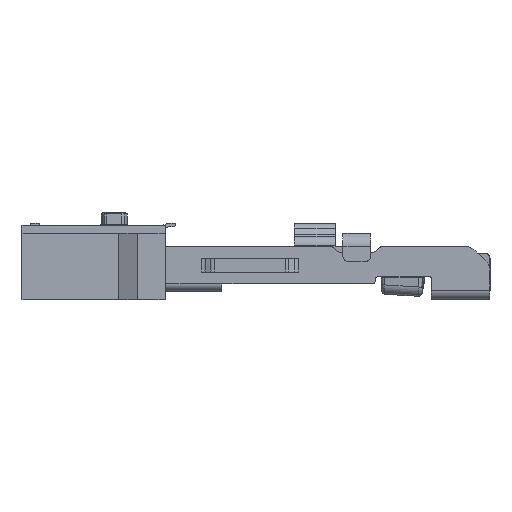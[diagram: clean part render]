
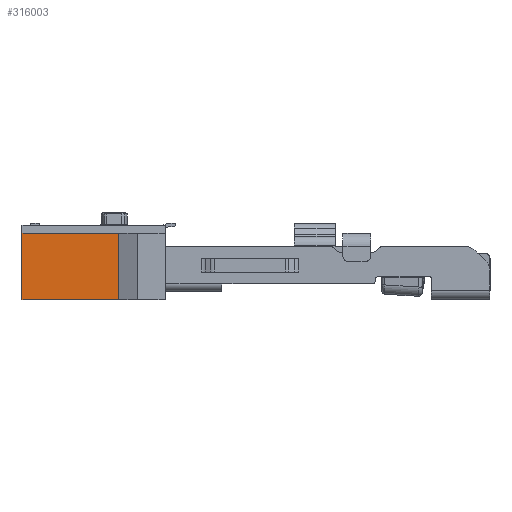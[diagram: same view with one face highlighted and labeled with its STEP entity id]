
A CAD part, front view. The second image highlights one B-rep face of the part: STEP entity #316003.
In plain terms, the highlighted planar face has unit normal (0, -1, 0).
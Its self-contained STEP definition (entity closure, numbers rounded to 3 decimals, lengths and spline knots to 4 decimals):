
#27371=DIRECTION('',(0.,0.,-1.));
#27372=VECTOR('',#27371,3.55);
#27373=CARTESIAN_POINT('',(0.,0.5,-1.15));
#27374=LINE('',#27373,#27372);
#32486=DIRECTION('',(1.,0.,0.));
#32487=VECTOR('',#32486,5.2);
#32488=CARTESIAN_POINT('',(0.,0.5,-4.7));
#32489=LINE('',#32488,#32487);
#78593=DIRECTION('',(1.,0.,0.));
#78594=VECTOR('',#78593,5.2);
#78595=CARTESIAN_POINT('',(0.,0.5,-1.15));
#78596=LINE('',#78595,#78594);
#78597=DIRECTION('',(0.,0.,-1.));
#78598=VECTOR('',#78597,3.55);
#78599=CARTESIAN_POINT('',(5.2,0.5,-1.15));
#78600=LINE('',#78599,#78598);
#134537=CARTESIAN_POINT('',(0.,0.5,-4.7));
#134538=VERTEX_POINT('',#134537);
#134559=CARTESIAN_POINT('',(0.,0.5,-1.15));
#134561=VERTEX_POINT('',#134559);
#134571=CARTESIAN_POINT('',(5.2,0.5,-1.15));
#134572=VERTEX_POINT('',#134571);
#134577=CARTESIAN_POINT('',(5.2,0.5,-4.7));
#134578=VERTEX_POINT('',#134577);
#315990=CARTESIAN_POINT('',(0.,0.5,-0.7));
#315991=DIRECTION('',(0.,-1.,0.));
#315992=DIRECTION('',(0.,0.,-1.));
#315993=AXIS2_PLACEMENT_3D('',#315990,#315991,#315992);
#315994=PLANE('',#315993);
#315996=ORIENTED_EDGE('',*,*,#315995,.T.);
#315998=ORIENTED_EDGE('',*,*,#315997,.T.);
#315999=ORIENTED_EDGE('',*,*,#226967,.F.);
#316000=ORIENTED_EDGE('',*,*,#223030,.F.);
#316001=EDGE_LOOP('',(#315996,#315998,#315999,#316000));
#316002=FACE_OUTER_BOUND('',#316001,.F.);
#223030=EDGE_CURVE('',#134561,#134538,#27374,.T.);
#226967=EDGE_CURVE('',#134538,#134578,#32489,.T.);
#315995=EDGE_CURVE('',#134561,#134572,#78596,.T.);
#315997=EDGE_CURVE('',#134572,#134578,#78600,.T.);
#316003=ADVANCED_FACE('',(#316002),#315994,.T.);
